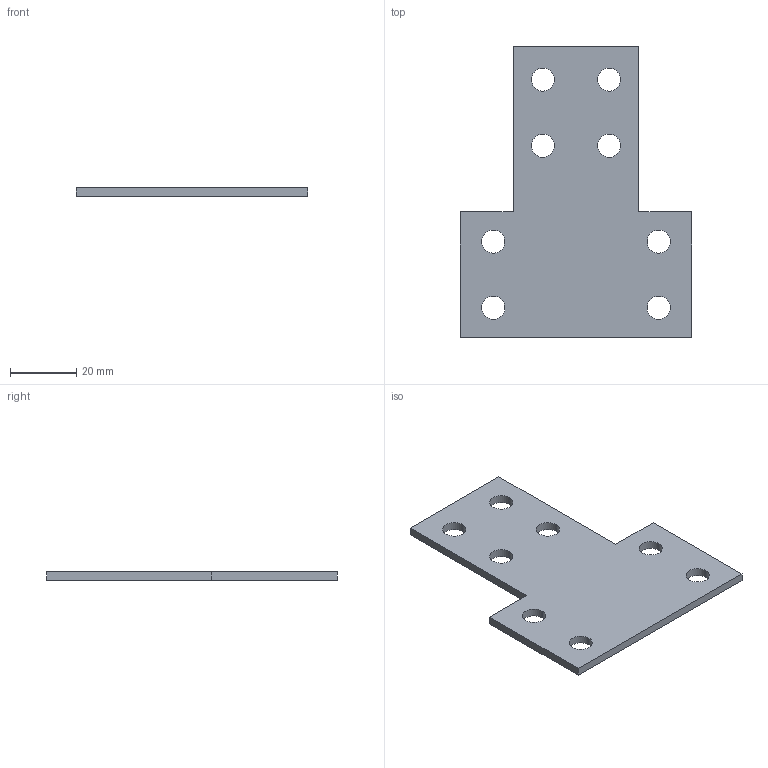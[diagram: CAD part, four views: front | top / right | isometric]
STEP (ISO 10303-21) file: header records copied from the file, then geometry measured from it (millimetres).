
FILE_DESCRIPTION (( 'STEP AP203' ), '1' );
FILE_NAME ('2087.step', '2019-02-19T08:44:09', ( '' ), ( '' ), 'SwSTEP 2.0', 'SolidWorks 2016', '' );
FILE_SCHEMA (( 'CONFIG_CONTROL_DESIGN' ));
Length unit declared in the file: millimetre
Products named in the file (1): 2087
Bounding box: 70 x 88 x 2.5 mm (x, y, z)
Volume: 10630.3 mm3; surface area: 9734.1 mm2
Topology: 1 solids, 1 shells, 26 faces, 72 edges, 48 vertices
Faces by surface type: cylinder 16, plane 10
Entity records: 957 total; most frequent: DIRECTION 158, CARTESIAN_POINT 147, ORIENTED_EDGE 144, EDGE_CURVE 72, AXIS2_PLACEMENT_3D 59, VERTEX_POINT 48, EDGE_LOOP 42, VECTOR 40
